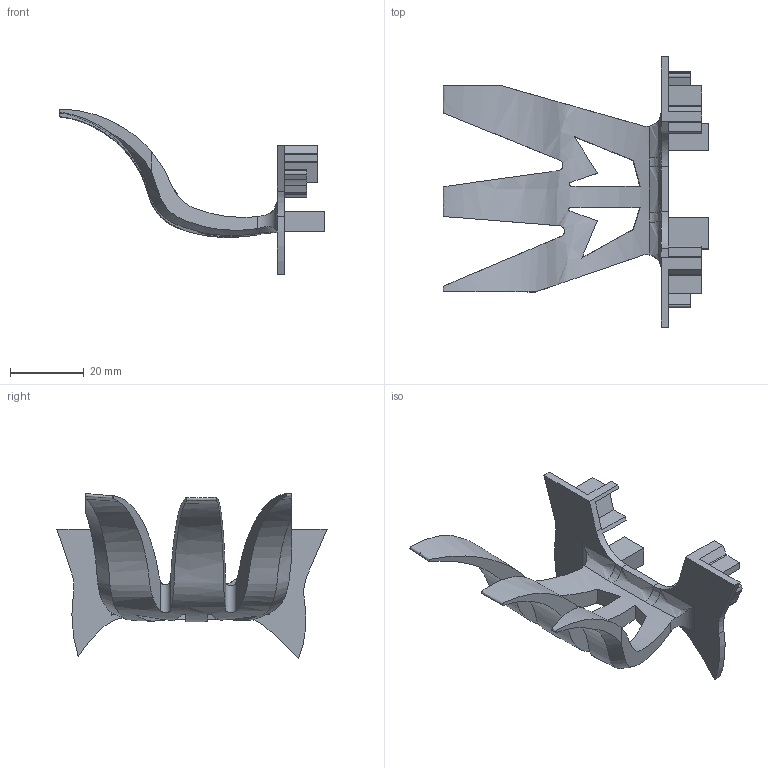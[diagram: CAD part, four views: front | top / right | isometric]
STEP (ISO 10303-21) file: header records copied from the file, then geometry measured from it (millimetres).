
FILE_DESCRIPTION(/* description */ (''),/* implementation_level */ '2;1');
FILE_NAME(/* name */ '车尾.prt.stp',/* time_stamp */ '2021-03-21T20:47:26+08:00',/* author */ (''),/* organization */ (''),/* preprocessor_version */ 'ST-DEVELOPER v16',/* originating_system */ 'SIEMENS PLM Software NX 10.0',/* authorisation */ '');
FILE_SCHEMA (('CONFIG_CONTROL_DESIGN'));
Length unit declared in the file: millimetre
Products named in the file (1): 车尾
Bounding box: 72.26 x 73.42 x 45.07 mm (x, y, z)
Volume: 14713.6 mm3; surface area: 11874.2 mm2
Topology: 1 solids, 1 shells, 159 faces, 437 edges, 288 vertices
Faces by surface type: plane 101, cylinder 44, bspline 14
Entity records: 6930 total; most frequent: CARTESIAN_POINT 2908, ORIENTED_EDGE 874, DIRECTION 738, EDGE_CURVE 437, VERTEX_POINT 288, LINE 274, VECTOR 274, AXIS2_PLACEMENT_3D 232
